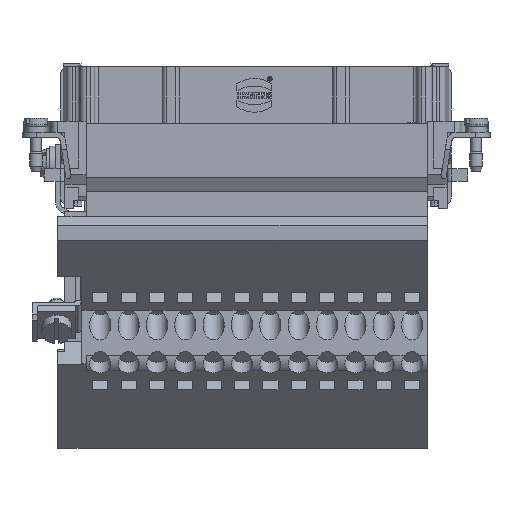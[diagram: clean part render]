
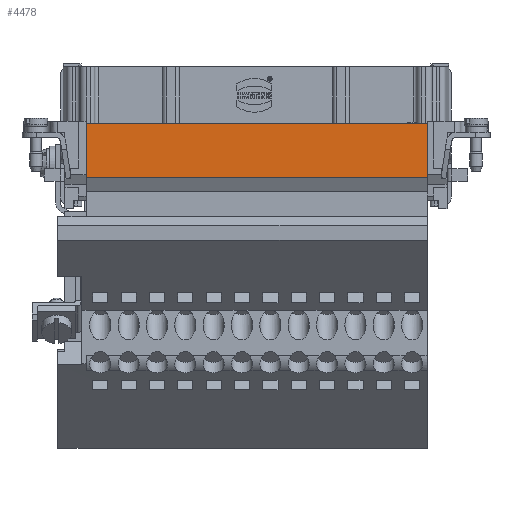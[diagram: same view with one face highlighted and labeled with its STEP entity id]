
A CAD part, front view. The second image highlights one B-rep face of the part: STEP entity #4478.
In plain terms, the highlighted planar face has unit normal (0, -1, 0).
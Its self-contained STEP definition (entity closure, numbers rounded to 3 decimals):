
#3552=FACE_OUTER_BOUND('',#7588,.T.);
#4478=ADVANCED_FACE('',(#3552),#5453,.T.);
#5453=PLANE('',#23467);
#7588=EDGE_LOOP('',(#10623,#10624,#10625,#10626,#10627,#10628));
#10623=ORIENTED_EDGE('',*,*,#16913,.T.);
#10624=ORIENTED_EDGE('',*,*,#15778,.F.);
#10625=ORIENTED_EDGE('',*,*,#15765,.F.);
#10626=ORIENTED_EDGE('',*,*,#16912,.F.);
#10627=ORIENTED_EDGE('',*,*,#15829,.F.);
#10628=ORIENTED_EDGE('',*,*,#15835,.F.);
#13901=VERTEX_POINT('',#30208);
#13902=VERTEX_POINT('',#30209);
#13906=VERTEX_POINT('',#30218);
#13958=VERTEX_POINT('',#30332);
#13961=VERTEX_POINT('',#30337);
#13964=VERTEX_POINT('',#30348);
#15765=EDGE_CURVE('',#13901,#13902,#18406,.T.);
#15778=EDGE_CURVE('',#13902,#13906,#18419,.T.);
#15829=EDGE_CURVE('',#13961,#13958,#18467,.T.);
#15835=EDGE_CURVE('',#13964,#13961,#18473,.T.);
#16912=EDGE_CURVE('',#13958,#13901,#19293,.T.);
#16913=EDGE_CURVE('',#13964,#13906,#19294,.T.);
#18406=LINE('',#30207,#20354);
#18419=LINE('',#30234,#20367);
#18467=LINE('',#30338,#20415);
#18473=LINE('',#30350,#20421);
#19293=LINE('',#32742,#21241);
#19294=LINE('',#32744,#21242);
#20354=VECTOR('',#24655,1.);
#20367=VECTOR('',#24670,1.);
#20415=VECTOR('',#24734,1.);
#20421=VECTOR('',#24744,1.);
#21241=VECTOR('',#26772,1.);
#21242=VECTOR('',#26775,1.);
#23467=AXIS2_PLACEMENT_3D('',#32745,#26776,#26777);
#24655=DIRECTION('',(0.,0.,1.));
#24670=DIRECTION('',(0.,0.,1.));
#24734=DIRECTION('',(0.,0.,-1.));
#24744=DIRECTION('',(0.,0.,-1.));
#26772=DIRECTION('',(-1.,0.,0.));
#26775=DIRECTION('',(-1.,0.,0.));
#26776=DIRECTION('',(0.,-1.,0.));
#26777=DIRECTION('',(0.,0.,1.));
#30207=CARTESIAN_POINT('',(-40.15,-16.9,-9.419));
#30208=CARTESIAN_POINT('',(-40.15,-16.9,-9.419));
#30209=CARTESIAN_POINT('',(-40.15,-16.9,-8.973));
#30218=CARTESIAN_POINT('',(-40.15,-16.9,3.3));
#30234=CARTESIAN_POINT('',(-40.15,-16.9,-9.419));
#30332=CARTESIAN_POINT('',(40.45,-16.9,-9.419));
#30337=CARTESIAN_POINT('',(40.45,-16.9,-8.973));
#30338=CARTESIAN_POINT('',(40.45,-16.9,-15.935));
#30348=CARTESIAN_POINT('',(40.45,-16.9,3.3));
#30350=CARTESIAN_POINT('',(40.45,-16.9,-15.935));
#32742=CARTESIAN_POINT('',(6.75,-16.9,-9.419));
#32744=CARTESIAN_POINT('',(6.75,-16.9,3.3));
#32745=CARTESIAN_POINT('',(6.75,-16.9,-9.419));
